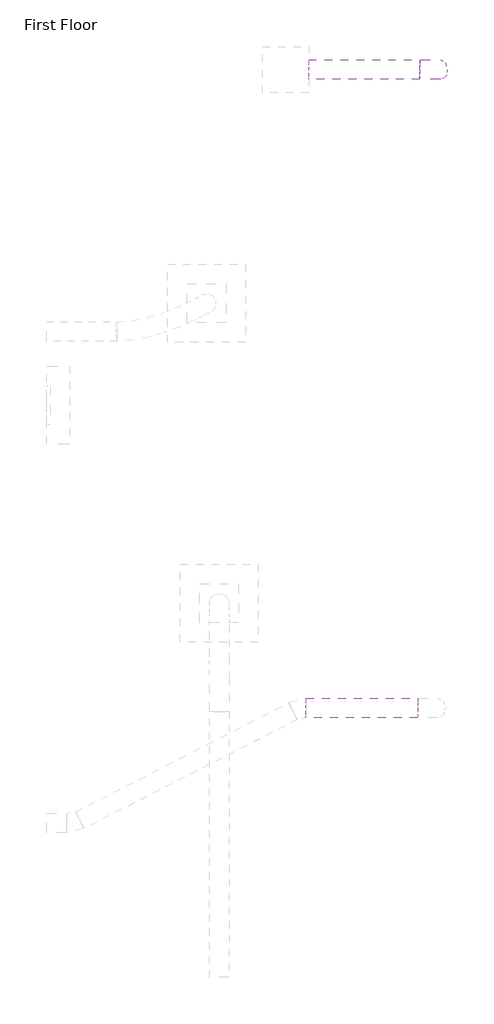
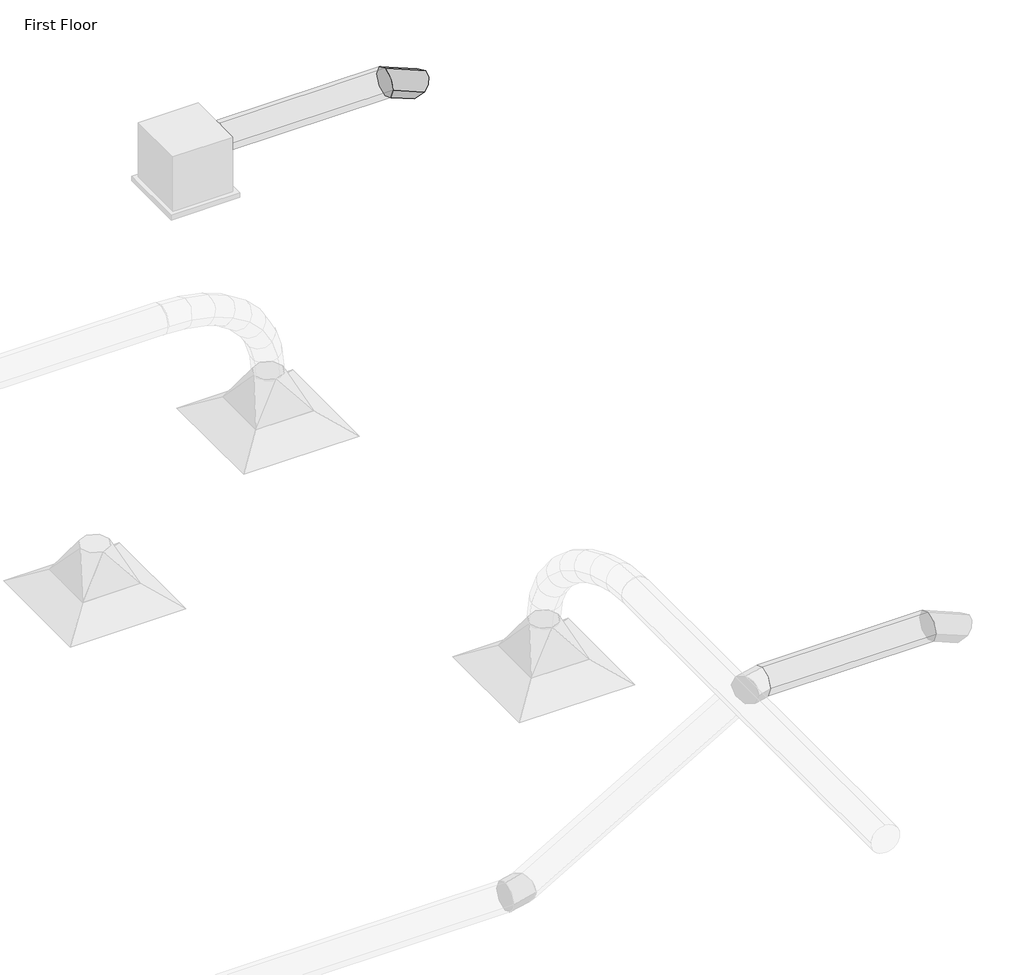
# One storey, part 61 of 61: 2 duct segments, 1 duct fitting.
"""IFC4 building model written with IfcOpenShell, lengths in millimetres."""

from ifc_helpers import new_model, si_unit, point, frame, frame_2d, origin, place, context, project, spatial, circle_curve, trimmed, segment, composite_curve, outline, extrude, transform, mapped, element, save
from components import m_round_elbow_1_5_d_fa134dda

model = new_model("IFC4")

# Units and contexts
model_context = context("Model", 3, world=origin())
ifc_project = project(units=[si_unit("LENGTHUNIT", "METRE", prefix="MILLI")], contexts=[model_context])

# Site, building, storey
site = spatial("IfcSite", under=ifc_project)
building = spatial("IfcBuilding", under=site)
storey = spatial("IfcBuildingStorey", under=building, Name="First Floor", Elevation=0.0)

# Duct fitting
placement = place(None, origin())
m_round_elbow_1_5_d_shape = m_round_elbow_1_5_d_fa134dda(model_context)
element("IfcDuctFitting", 1, ObjectType="M_Round Elbow : 1.5 D", at=placement, inside=storey, context=model_context, shape_type="MappedRepresentation", body=[
    mapped(m_round_elbow_1_5_d_shape, transform((579.6104012, 27713.6462369, 2879.6), x_axis=(1.0000000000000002, 0.0, 0.0), y_axis=(0.0, 0.0, -1.0000000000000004), z_axis=(0.0, 1.0000000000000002, 0.0))),
])

# Duct segments
element("IfcDuctSegment", 2, ObjectType="Taps", at=placement, inside=storey, context=model_context, shape_type="SweptSolid", body=[
    extrude(outline(composite_curve([segment(trimmed(circle_curve(frame_2d((27713.6462369, 2879.6)), 75.0), [point((27638.6462369, 2879.6))], [point((27713.6462369, 2954.6))], False, "CARTESIAN"), True, "CONTINUOUS"), segment(trimmed(circle_curve(frame_2d((27713.6462369, 2879.6)), 75.0), [point((27713.6462369, 2954.6))], [point((27788.6462369, 2879.6))], False, "CARTESIAN"), True, "CONTINUOUS"), segment(trimmed(circle_curve(frame_2d((27713.6462369, 2879.6)), 75.0), [point((27788.6462369, 2879.6))], [point((27713.6462369, 2804.6))], False, "CARTESIAN"), True, "CONTINUOUS"), segment(trimmed(circle_curve(frame_2d((27713.6462369, 2879.6)), 75.0), [point((27713.6462369, 2804.6))], [point((27638.6462369, 2879.6))], False, "CARTESIAN"), True, "CONTINUOUS")], self_intersect=False)), frame((-370.2675607, 0.0, 0.0), z_axis=(1.0, 0.0, 0.0), x_axis=(0.0, 1.0, 0.0)), (0.0, 0.0, 1.0), 856.6799103),
])
element("IfcDuctSegment", 3, ObjectType="Taps", at=placement, inside=storey, context=model_context, shape_type="SweptSolid", body=[
    extrude(outline(composite_curve([segment(trimmed(circle_curve(frame_2d((22803.0823669, 2879.6)), 75.0), [point((22878.0823669, 2879.6))], [point((22803.0823669, 2804.6))], False, "CARTESIAN"), True, "CONTINUOUS"), segment(trimmed(circle_curve(frame_2d((22803.0823669, 2879.6)), 75.0), [point((22803.0823669, 2804.6))], [point((22728.0823669, 2879.6))], False, "CARTESIAN"), True, "CONTINUOUS"), segment(trimmed(circle_curve(frame_2d((22803.0823669, 2879.6)), 75.0), [point((22728.0823669, 2879.6))], [point((22803.0823669, 2954.6))], False, "CARTESIAN"), True, "CONTINUOUS"), segment(trimmed(circle_curve(frame_2d((22803.0823669, 2879.6)), 75.0), [point((22803.0823669, 2954.6))], [point((22878.0823669, 2879.6))], False, "CARTESIAN"), True, "CONTINUOUS")], self_intersect=False)), frame((-390.0042096, 0.0, 0.0), z_axis=(1.0, 0.0, 0.0), x_axis=(0.0, 1.0, 0.0)), (0.0, 0.0, 1.0), 860.402757),
])

save(model, "model.ifc")
